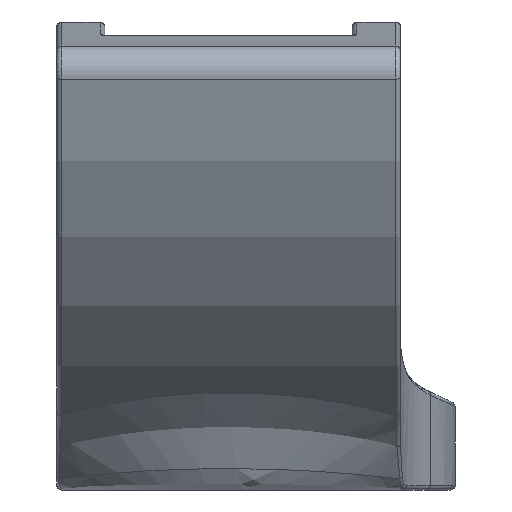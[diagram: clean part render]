
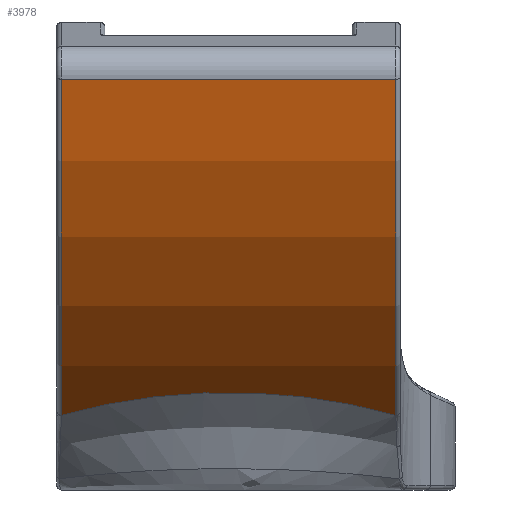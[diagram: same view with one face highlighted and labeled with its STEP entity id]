
A CAD part, front view. The second image highlights one B-rep face of the part: STEP entity #3978.
In plain terms, the highlighted cylindrical face has radius 59 mm (diameter 118 mm), a partial arc.
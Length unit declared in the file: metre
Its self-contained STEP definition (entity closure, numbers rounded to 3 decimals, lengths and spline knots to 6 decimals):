
#191=CYLINDRICAL_SURFACE('',#4318,0.059);
#280=B_SPLINE_CURVE_WITH_KNOTS('',3,(#6472,#6473,#6474,#6475,#6476,#6477,
#6478,#6479,#6480),.UNSPECIFIED.,.F.,.F.,(4,1,1,1,1,1,4),(0.000577,
0.010221,0.015043,0.019865,0.024687,
0.029509,0.039152),.UNSPECIFIED.);
#400=CIRCLE('',#4319,0.059);
#401=CIRCLE('',#4320,0.059);
#816=ORIENTED_EDGE('',*,*,#2016,.T.);
#817=ORIENTED_EDGE('',*,*,#2017,.T.);
#818=ORIENTED_EDGE('',*,*,#2018,.T.);
#819=ORIENTED_EDGE('',*,*,#2019,.T.);
#2016=EDGE_CURVE('',#2616,#2617,#280,.T.);
#2017=EDGE_CURVE('',#2617,#2618,#400,.F.);
#2018=EDGE_CURVE('',#2618,#2619,#2958,.F.);
#2019=EDGE_CURVE('',#2619,#2616,#401,.F.);
#2616=VERTEX_POINT('',#6481);
#2617=VERTEX_POINT('',#6482);
#2618=VERTEX_POINT('',#6484);
#2619=VERTEX_POINT('',#6486);
#2958=LINE('',#6485,#3076);
#3076=VECTOR('',#5033,1.);
#3191=EDGE_LOOP('',(#816,#817,#818,#819));
#3576=FACE_BOUND('',#3191,.T.);
#3978=ADVANCED_FACE('',(#3576),#191,.T.);
#4318=AXIS2_PLACEMENT_3D('',#6471,#5029,#5030);
#4319=AXIS2_PLACEMENT_3D('',#6483,#5031,#5032);
#4320=AXIS2_PLACEMENT_3D('',#6487,#5034,#5035);
#5029=DIRECTION('',(1.,0.,0.));
#5030=DIRECTION('',(0.,1.,0.));
#5031=DIRECTION('',(1.,0.,0.));
#5032=DIRECTION('',(0.,1.,0.));
#5033=DIRECTION('',(1.,0.,0.));
#5034=DIRECTION('',(-1.,0.,0.));
#5035=DIRECTION('',(0.,-1.,0.));
#6471=CARTESIAN_POINT('',(-0.018952,-0.000067,0.059074));
#6472=CARTESIAN_POINT('',(-0.01845,-0.030009,0.008236));
#6473=CARTESIAN_POINT('',(-0.015652,-0.031391,0.00905));
#6474=CARTESIAN_POINT('',(-0.011094,-0.032845,0.010009));
#6475=CARTESIAN_POINT('',(-0.004802,-0.033773,0.010649));
#6476=CARTESIAN_POINT('',(0.000042,-0.034002,0.01081));
#6477=CARTESIAN_POINT('',(0.004817,-0.033772,0.010647));
#6478=CARTESIAN_POINT('',(0.011183,-0.032826,0.009996));
#6479=CARTESIAN_POINT('',(0.015652,-0.031391,0.00905));
#6480=CARTESIAN_POINT('',(0.01845,-0.030009,0.008236));
#6481=CARTESIAN_POINT('',(-0.01845,-0.030009,0.008236));
#6482=CARTESIAN_POINT('',(0.01845,-0.030009,0.008236));
#6483=CARTESIAN_POINT('',(0.01845,-0.000067,0.059074));
#6484=CARTESIAN_POINT('',(0.01845,-0.057447,0.04534));
#6485=CARTESIAN_POINT('',(-0.018952,-0.057447,0.04534));
#6486=CARTESIAN_POINT('',(-0.01845,-0.057447,0.04534));
#6487=CARTESIAN_POINT('',(-0.01845,-0.000067,0.059074));
